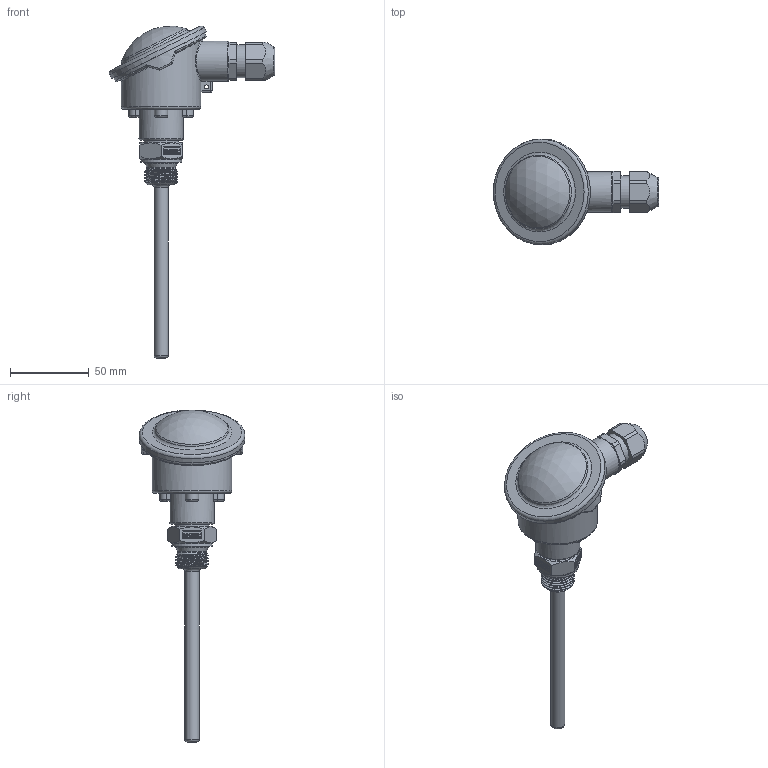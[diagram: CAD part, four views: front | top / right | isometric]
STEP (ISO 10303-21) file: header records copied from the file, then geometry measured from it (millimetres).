
FILE_DESCRIPTION(/* description */ (''),/* implementation_level */ '2;1');
FILE_NAME(/* name */ 'C:/Users/Admin/Desktop/MWT_210 v3.step',/* time_stamp */ '2022-03-14T08:37:10+01:00',/* author */ (''),/* organization */ (''),/* preprocessor_version */ 'ST-DEVELOPER v18.1',/* originating_system */ 'Autodesk Translation Framework v10.13.0.1454',/* authorisation */ '');
FILE_SCHEMA (('AUTOMOTIVE_DESIGN { 1 0 10303 214 3 1 1 }'));
Length unit declared in the file: millimetre
Products named in the file (1): MWT_210
Bounding box: 104.89 x 67 x 210.55 mm (x, y, z)
Volume: 81227.7 mm3; surface area: 44184 mm2
Topology: 3 solids, 3 shells, 580 faces, 1547 edges, 1019 vertices
Faces by surface type: plane 316, bspline 164, cylinder 61, torus 23, cone 11, sphere 5
Full cylindrical faces by diameter (mm): 2.5 x1, 6.5 x1, 7 x1, 9 x1, 13.3 x1, 14.5 x1, 18.526 x1, 18.631 x4, 19.85 x1, 20 x1, 20.813 x3, 20.9 x1, 21.5 x1, 22.526 x1, 23.85 x1, 25.5 x1, 26 x1, 28.2 x1, 47 x1, 50 x1, 50.5 x1, 64.5 x1, 67 x1
Entity records: 25296 total; most frequent: CARTESIAN_POINT 11812, ORIENTED_EDGE 3094, DIRECTION 2181, EDGE_CURVE 1547, VERTEX_POINT 1019, LINE 945, VECTOR 945, EDGE_LOOP 632
